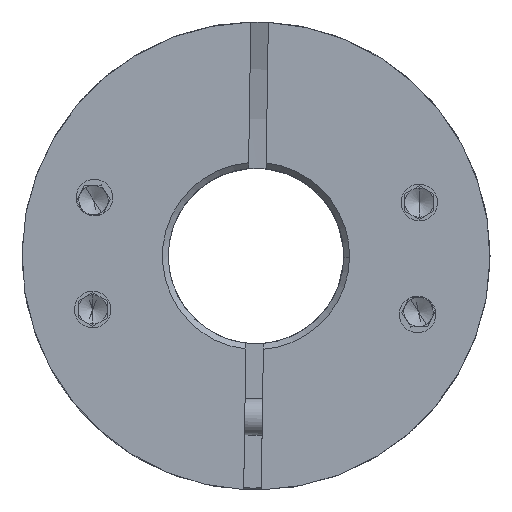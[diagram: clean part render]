
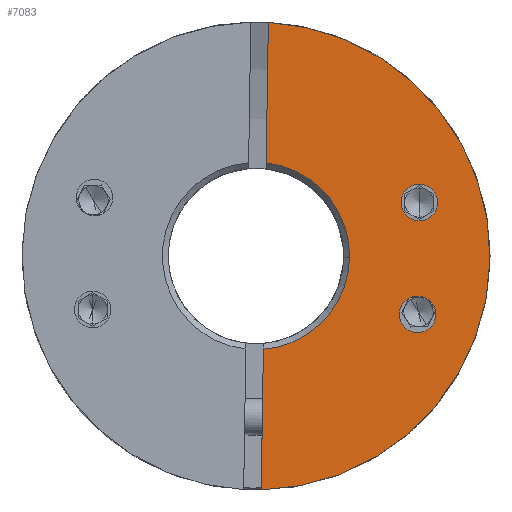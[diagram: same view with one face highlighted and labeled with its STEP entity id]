
A CAD part, front view. The second image highlights one B-rep face of the part: STEP entity #7083.
In plain terms, the highlighted planar face has unit normal (0, -1, 0).
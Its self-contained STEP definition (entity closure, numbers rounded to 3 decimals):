
#89 = CARTESIAN_POINT ( 'NONE',  ( -58.487, -19.411, 5.99 ) ) ;
#494 = DIRECTION ( 'NONE',  ( 0., 1., 0. ) ) ;
#743 = EDGE_LOOP ( 'NONE', ( #15893, #8044 ) ) ;
#2206 = CARTESIAN_POINT ( 'NONE',  ( -46.762, -19.411, 3.637 ) ) ;
#2922 = ORIENTED_EDGE ( 'NONE', *, *, #13199, .T. ) ;
#3351 = VERTEX_POINT ( 'NONE', #2206 ) ;
#3472 = CARTESIAN_POINT ( 'NONE',  ( -49.378, -19.411, -3.975 ) ) ;
#3776 = EDGE_CURVE ( 'NONE', #17533, #20240, #7388, .T. ) ;
#4278 = DIRECTION ( 'NONE',  ( 0., 1., 0. ) ) ;
#4681 = CIRCLE ( 'NONE', #13284, 6.4 ) ;
#4805 = AXIS2_PLACEMENT_3D ( 'NONE', #6067, #494, #17136 ) ;
#5063 = CARTESIAN_POINT ( 'NONE',  ( -58.675, -19.411, -6.38 ) ) ;
#5213 = CIRCLE ( 'NONE', #4805, 1.25 ) ;
#5957 = DIRECTION ( 'NONE',  ( -0.015, 0., -1. ) ) ;
#6067 = CARTESIAN_POINT ( 'NONE',  ( -48.128, -19.411, -3.994 ) ) ;
#6098 = CARTESIAN_POINT ( 'NONE',  ( -48.128, -19.411, -3.994 ) ) ;
#6193 = VERTEX_POINT ( 'NONE', #5063 ) ;
#6482 = AXIS2_PLACEMENT_3D ( 'NONE', #8199, #19389, #8356 ) ;
#6663 = AXIS2_PLACEMENT_3D ( 'NONE', #6098, #4278, #17329 ) ;
#6693 = AXIS2_PLACEMENT_3D ( 'NONE', #8281, #18911, #20634 ) ;
#7083 = ADVANCED_FACE ( 'NONE', ( #14283, #9312, #8724 ), #19944, .T. ) ;
#7203 = VECTOR ( 'NONE', #16871, 1000. ) ;
#7334 = ORIENTED_EDGE ( 'NONE', *, *, #12223, .T. ) ;
#7388 = CIRCLE ( 'NONE', #6663, 1.25 ) ;
#7834 = VERTEX_POINT ( 'NONE', #14266 ) ;
#8044 = ORIENTED_EDGE ( 'NONE', *, *, #21517, .T. ) ;
#8199 = CARTESIAN_POINT ( 'NONE',  ( -48.012, -19.411, 3.656 ) ) ;
#8262 = EDGE_LOOP ( 'NONE', ( #15472, #13447 ) ) ;
#8281 = CARTESIAN_POINT ( 'NONE',  ( -59.178, -19.411, 0. ) ) ;
#8356 = DIRECTION ( 'NONE',  ( 1., 0., -0.015 ) ) ;
#8650 = ORIENTED_EDGE ( 'NONE', *, *, #23262, .T. ) ;
#8724 = FACE_BOUND ( 'NONE', #743, .T. ) ;
#8731 = EDGE_CURVE ( 'NONE', #11979, #21532, #18875, .T. ) ;
#8932 = AXIS2_PLACEMENT_3D ( 'NONE', #16040, #14380, #12248 ) ;
#9266 = LINE ( 'NONE', #20863, #17960 ) ;
#9312 = FACE_BOUND ( 'NONE', #8262, .T. ) ;
#9563 = CARTESIAN_POINT ( 'NONE',  ( -58.336, -19.411, 15.978 ) ) ;
#9576 = DIRECTION ( 'NONE',  ( 0., 1., 0. ) ) ;
#9678 = DIRECTION ( 'NONE',  ( 1., 0., -0.015 ) ) ;
#9836 = AXIS2_PLACEMENT_3D ( 'NONE', #10636, #9576, #20406 ) ;
#10200 = CARTESIAN_POINT ( 'NONE',  ( -59.178, -19.411, 0. ) ) ;
#10299 = EDGE_CURVE ( 'NONE', #3351, #7834, #19946, .T. ) ;
#10538 = ORIENTED_EDGE ( 'NONE', *, *, #8731, .T. ) ;
#10636 = CARTESIAN_POINT ( 'NONE',  ( -48.012, -19.411, 3.656 ) ) ;
#11348 = VERTEX_POINT ( 'NONE', #19618 ) ;
#11514 = EDGE_LOOP ( 'NONE', ( #8650, #2922, #21653, #24201, #10538, #7334 ) ) ;
#11979 = VERTEX_POINT ( 'NONE', #16410 ) ;
#12223 = EDGE_CURVE ( 'NONE', #21532, #23287, #18737, .T. ) ;
#12248 = DIRECTION ( 'NONE',  ( 1., 0., -0.015 ) ) ;
#12396 = DIRECTION ( 'NONE',  ( 1., 0., -0.015 ) ) ;
#12759 = LINE ( 'NONE', #89, #7203 ) ;
#13199 = EDGE_CURVE ( 'NONE', #14560, #11348, #4681, .T. ) ;
#13284 = AXIS2_PLACEMENT_3D ( 'NONE', #23910, #22028, #20207 ) ;
#13447 = ORIENTED_EDGE ( 'NONE', *, *, #10299, .T. ) ;
#14266 = CARTESIAN_POINT ( 'NONE',  ( -49.261, -19.411, 3.675 ) ) ;
#14283 = FACE_OUTER_BOUND ( 'NONE', #11514, .T. ) ;
#14380 = DIRECTION ( 'NONE',  ( 0., -1., 0. ) ) ;
#14560 = VERTEX_POINT ( 'NONE', #19434 ) ;
#14892 = AXIS2_PLACEMENT_3D ( 'NONE', #10200, #16923, #12396 ) ;
#15472 = ORIENTED_EDGE ( 'NONE', *, *, #21306, .T. ) ;
#15893 = ORIENTED_EDGE ( 'NONE', *, *, #3776, .T. ) ;
#16040 = CARTESIAN_POINT ( 'NONE',  ( -59.178, -19.411, 0. ) ) ;
#16410 = CARTESIAN_POINT ( 'NONE',  ( -58.821, -19.411, -15.996 ) ) ;
#16871 = DIRECTION ( 'NONE',  ( -0.015, 0., -1. ) ) ;
#16923 = DIRECTION ( 'NONE',  ( 0., -1., 0. ) ) ;
#17136 = DIRECTION ( 'NONE',  ( 1., 0., -0.015 ) ) ;
#17329 = DIRECTION ( 'NONE',  ( 1., 0., -0.015 ) ) ;
#17413 = AXIS2_PLACEMENT_3D ( 'NONE', #18859, #20746, #9678 ) ;
#17533 = VERTEX_POINT ( 'NONE', #3472 ) ;
#17960 = VECTOR ( 'NONE', #5957, 1000. ) ;
#18498 = CIRCLE ( 'NONE', #6693, 6.4 ) ;
#18737 = CIRCLE ( 'NONE', #17413, 16. ) ;
#18766 = CARTESIAN_POINT ( 'NONE',  ( -43.18, -19.411, -0.243 ) ) ;
#18859 = CARTESIAN_POINT ( 'NONE',  ( -59.178, -19.411, 0. ) ) ;
#18875 = CIRCLE ( 'NONE', #14892, 16. ) ;
#18911 = DIRECTION ( 'NONE',  ( 0., 1., 0. ) ) ;
#19389 = DIRECTION ( 'NONE',  ( 0., 1., 0. ) ) ;
#19434 = CARTESIAN_POINT ( 'NONE',  ( -58.482, -19.411, 6.362 ) ) ;
#19618 = CARTESIAN_POINT ( 'NONE',  ( -52.779, -19.411, -0.097 ) ) ;
#19944 = PLANE ( 'NONE',  #8932 ) ;
#19946 = CIRCLE ( 'NONE', #6482, 1.25 ) ;
#20207 = DIRECTION ( 'NONE',  ( 1., 0., -0.015 ) ) ;
#20240 = VERTEX_POINT ( 'NONE', #24239 ) ;
#20293 = EDGE_CURVE ( 'NONE', #11348, #6193, #18498, .T. ) ;
#20406 = DIRECTION ( 'NONE',  ( 1., 0., -0.015 ) ) ;
#20634 = DIRECTION ( 'NONE',  ( 1., 0., -0.015 ) ) ;
#20746 = DIRECTION ( 'NONE',  ( 0., -1., 0. ) ) ;
#20863 = CARTESIAN_POINT ( 'NONE',  ( -58.487, -19.411, 5.99 ) ) ;
#21306 = EDGE_CURVE ( 'NONE', #7834, #3351, #23632, .T. ) ;
#21517 = EDGE_CURVE ( 'NONE', #20240, #17533, #5213, .T. ) ;
#21532 = VERTEX_POINT ( 'NONE', #18766 ) ;
#21653 = ORIENTED_EDGE ( 'NONE', *, *, #20293, .T. ) ;
#22028 = DIRECTION ( 'NONE',  ( 0., 1., 0. ) ) ;
#23262 = EDGE_CURVE ( 'NONE', #23287, #14560, #9266, .T. ) ;
#23287 = VERTEX_POINT ( 'NONE', #9563 ) ;
#23632 = CIRCLE ( 'NONE', #9836, 1.25 ) ;
#23640 = EDGE_CURVE ( 'NONE', #6193, #11979, #12759, .T. ) ;
#23910 = CARTESIAN_POINT ( 'NONE',  ( -59.178, -19.411, 0. ) ) ;
#24201 = ORIENTED_EDGE ( 'NONE', *, *, #23640, .T. ) ;
#24239 = CARTESIAN_POINT ( 'NONE',  ( -46.878, -19.411, -4.013 ) ) ;
